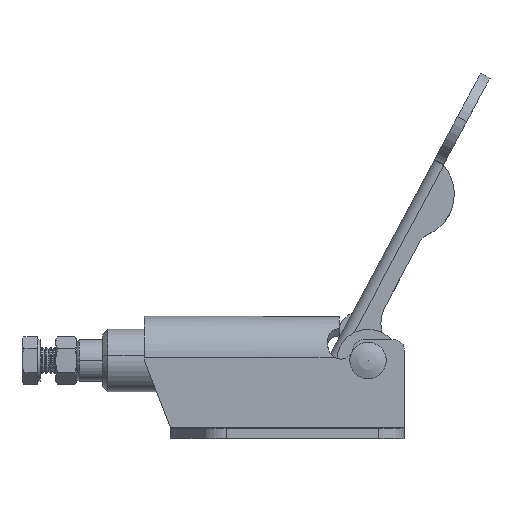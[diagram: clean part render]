
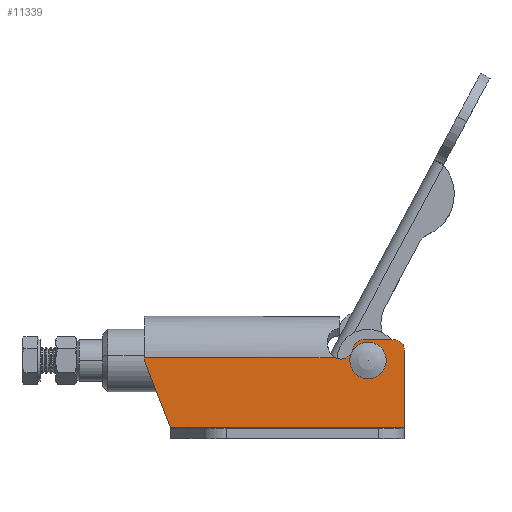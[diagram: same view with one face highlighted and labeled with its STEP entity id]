
A CAD part, top view. The second image highlights one B-rep face of the part: STEP entity #11339.
In plain terms, the highlighted planar face has unit normal (0, 0, 1).
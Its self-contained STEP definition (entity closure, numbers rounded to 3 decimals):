
#306 = DIRECTION ( 'NONE',  ( -1., 0., 0. ) ) ;
#389 = AXIS2_PLACEMENT_3D ( 'NONE', #11554, #5978, #306 ) ;
#404 = VECTOR ( 'NONE', #10124, 1000. ) ;
#923 = VERTEX_POINT ( 'NONE', #2512 ) ;
#1147 = CARTESIAN_POINT ( 'NONE',  ( -7., 13., 8. ) ) ;
#1309 = PLANE ( 'NONE',  #9554 ) ;
#1428 = CARTESIAN_POINT ( 'NONE',  ( -9., 13., 8. ) ) ;
#2008 = DIRECTION ( 'NONE',  ( 1., 0., 0. ) ) ;
#2073 = AXIS2_PLACEMENT_3D ( 'NONE', #9656, #5490, #2744 ) ;
#2233 = ORIENTED_EDGE ( 'NONE', *, *, #4111, .T. ) ;
#2308 = DIRECTION ( 'NONE',  ( 0., 0., 1. ) ) ;
#2419 = ORIENTED_EDGE ( 'NONE', *, *, #12080, .T. ) ;
#2448 = CIRCLE ( 'NONE', #8588, 2. ) ;
#2470 = EDGE_CURVE ( 'NONE', #2914, #2856, #2448, .T. ) ;
#2512 = CARTESIAN_POINT ( 'NONE',  ( -9.838, 15.345, 8. ) ) ;
#2610 = DIRECTION ( 'NONE',  ( -1., 0., 0. ) ) ;
#2744 = DIRECTION ( 'NONE',  ( -1., 0., 0. ) ) ;
#2856 = VERTEX_POINT ( 'NONE', #2916 ) ;
#2877 = ORIENTED_EDGE ( 'NONE', *, *, #2470, .T. ) ;
#2914 = VERTEX_POINT ( 'NONE', #1428 ) ;
#2916 = CARTESIAN_POINT ( 'NONE',  ( -5., 13., 8. ) ) ;
#2931 = LINE ( 'NONE', #8298, #404 ) ;
#2992 = VERTEX_POINT ( 'NONE', #8780 ) ;
#3041 = AXIS2_PLACEMENT_3D ( 'NONE', #11008, #5373, #2610 ) ;
#3177 = DIRECTION ( 'NONE',  ( 0., 0., -1. ) ) ;
#3207 = ORIENTED_EDGE ( 'NONE', *, *, #5187, .F. ) ;
#3256 = CARTESIAN_POINT ( 'NONE',  ( 0., 0., 8. ) ) ;
#3583 = CARTESIAN_POINT ( 'NONE',  ( -2., 17., 8. ) ) ;
#3892 = ORIENTED_EDGE ( 'NONE', *, *, #8906, .T. ) ;
#4023 = CIRCLE ( 'NONE', #3041, 2. ) ;
#4111 = EDGE_CURVE ( 'NONE', #11481, #923, #6974, .T. ) ;
#4271 = CARTESIAN_POINT ( 'NONE',  ( -13.332, 13.5, 8. ) ) ;
#4336 = CIRCLE ( 'NONE', #389, 2. ) ;
#4656 = VECTOR ( 'NONE', #8785, 1000. ) ;
#4784 = EDGE_CURVE ( 'NONE', #8953, #11852, #4023, .T. ) ;
#4950 = DIRECTION ( 'NONE',  ( 0., 0., -1. ) ) ;
#5055 = ORIENTED_EDGE ( 'NONE', *, *, #5985, .F. ) ;
#5175 = VECTOR ( 'NONE', #6411, 1000. ) ;
#5187 = EDGE_CURVE ( 'NONE', #2992, #10728, #10133, .T. ) ;
#5373 = DIRECTION ( 'NONE',  ( 0., 0., 1. ) ) ;
#5490 = DIRECTION ( 'NONE',  ( 0., 0., 1. ) ) ;
#5545 = CARTESIAN_POINT ( 'NONE',  ( -45.603, 1.713, 8. ) ) ;
#5674 = FACE_BOUND ( 'NONE', #8255, .T. ) ;
#5846 = CARTESIAN_POINT ( 'NONE',  ( -50., 13.5, 8. ) ) ;
#5978 = DIRECTION ( 'NONE',  ( 0., 0., -1. ) ) ;
#5985 = EDGE_CURVE ( 'NONE', #10728, #11273, #8817, .T. ) ;
#6030 = ORIENTED_EDGE ( 'NONE', *, *, #9798, .F. ) ;
#6339 = DIRECTION ( 'NONE',  ( 1., 0., 0. ) ) ;
#6411 = DIRECTION ( 'NONE',  ( 0., 1., 0. ) ) ;
#6604 = CIRCLE ( 'NONE', #6876, 2.5 ) ;
#6683 = CARTESIAN_POINT ( 'NONE',  ( 0., 17., 8. ) ) ;
#6718 = VERTEX_POINT ( 'NONE', #9881 ) ;
#6816 = ORIENTED_EDGE ( 'NONE', *, *, #9539, .T. ) ;
#6876 = AXIS2_PLACEMENT_3D ( 'NONE', #8865, #2308, #7914 ) ;
#6933 = VECTOR ( 'NONE', #6339, 1000. ) ;
#6974 = CIRCLE ( 'NONE', #2073, 2. ) ;
#7175 = CARTESIAN_POINT ( 'NONE',  ( -50., 0., 8. ) ) ;
#7356 = VERTEX_POINT ( 'NONE', #8327 ) ;
#7914 = DIRECTION ( 'NONE',  ( -1., 0., 0. ) ) ;
#8012 = DIRECTION ( 'NONE',  ( -1., 0., 0. ) ) ;
#8042 = DIRECTION ( 'NONE',  ( -1., 0., 0. ) ) ;
#8255 = EDGE_LOOP ( 'NONE', ( #2877, #2419 ) ) ;
#8298 = CARTESIAN_POINT ( 'NONE',  ( -50., 0.1, 8. ) ) ;
#8327 = CARTESIAN_POINT ( 'NONE',  ( 0., 0.1, 8. ) ) ;
#8588 = AXIS2_PLACEMENT_3D ( 'NONE', #1147, #3177, #8012 ) ;
#8602 = VECTOR ( 'NONE', #2008, 1000. ) ;
#8665 = ORIENTED_EDGE ( 'NONE', *, *, #4784, .T. ) ;
#8780 = CARTESIAN_POINT ( 'NONE',  ( -50., 13., 8. ) ) ;
#8785 = DIRECTION ( 'NONE',  ( 0., 1., 0. ) ) ;
#8817 = LINE ( 'NONE', #10883, #6933 ) ;
#8865 = CARTESIAN_POINT ( 'NONE',  ( -12.3, 15.777, 8. ) ) ;
#8906 = EDGE_CURVE ( 'NONE', #2992, #6718, #10067, .T. ) ;
#8953 = VERTEX_POINT ( 'NONE', #11661 ) ;
#9034 = LINE ( 'NONE', #3256, #4656 ) ;
#9103 = EDGE_LOOP ( 'NONE', ( #3892, #6816, #10427, #8665, #10104, #2233, #6030, #5055, #3207 ) ) ;
#9539 = EDGE_CURVE ( 'NONE', #6718, #7356, #2931, .T. ) ;
#9554 = AXIS2_PLACEMENT_3D ( 'NONE', #7175, #4950, #8042 ) ;
#9656 = CARTESIAN_POINT ( 'NONE',  ( -7.868, 15., 8. ) ) ;
#9685 = CARTESIAN_POINT ( 'NONE',  ( -7.868, 17., 8. ) ) ;
#9798 = EDGE_CURVE ( 'NONE', #11273, #923, #6604, .T. ) ;
#9881 = CARTESIAN_POINT ( 'NONE',  ( -44.975, 0.1, 8. ) ) ;
#10067 = LINE ( 'NONE', #5545, #12004 ) ;
#10104 = ORIENTED_EDGE ( 'NONE', *, *, #10635, .F. ) ;
#10124 = DIRECTION ( 'NONE',  ( 1., 0., 0. ) ) ;
#10133 = LINE ( 'NONE', #10976, #5175 ) ;
#10427 = ORIENTED_EDGE ( 'NONE', *, *, #11260, .T. ) ;
#10479 = LINE ( 'NONE', #6683, #8602 ) ;
#10635 = EDGE_CURVE ( 'NONE', #11481, #11852, #10479, .T. ) ;
#10728 = VERTEX_POINT ( 'NONE', #5846 ) ;
#10883 = CARTESIAN_POINT ( 'NONE',  ( -50., 13.5, 8. ) ) ;
#10976 = CARTESIAN_POINT ( 'NONE',  ( -50., 0., 8. ) ) ;
#11008 = CARTESIAN_POINT ( 'NONE',  ( -2., 15., 8. ) ) ;
#11100 = DIRECTION ( 'NONE',  ( 0.363, -0.932, 0. ) ) ;
#11185 = FACE_OUTER_BOUND ( 'NONE', #9103, .T. ) ;
#11260 = EDGE_CURVE ( 'NONE', #7356, #8953, #9034, .T. ) ;
#11273 = VERTEX_POINT ( 'NONE', #4271 ) ;
#11339 = ADVANCED_FACE ( 'NONE', ( #5674, #11185 ), #1309, .F. ) ;
#11481 = VERTEX_POINT ( 'NONE', #9685 ) ;
#11554 = CARTESIAN_POINT ( 'NONE',  ( -7., 13., 8. ) ) ;
#11661 = CARTESIAN_POINT ( 'NONE',  ( 0., 15., 8. ) ) ;
#11852 = VERTEX_POINT ( 'NONE', #3583 ) ;
#12004 = VECTOR ( 'NONE', #11100, 1000. ) ;
#12080 = EDGE_CURVE ( 'NONE', #2856, #2914, #4336, .T. ) ;
